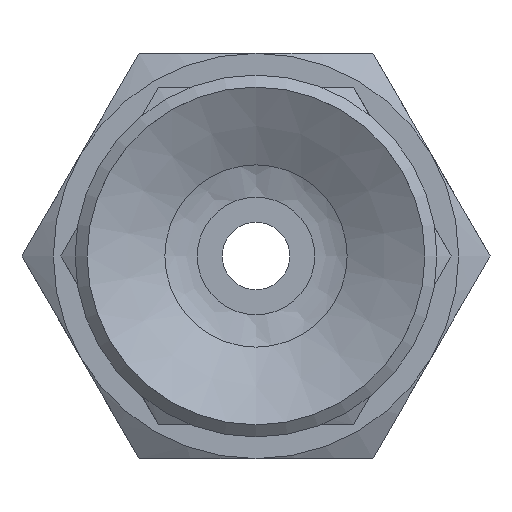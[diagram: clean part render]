
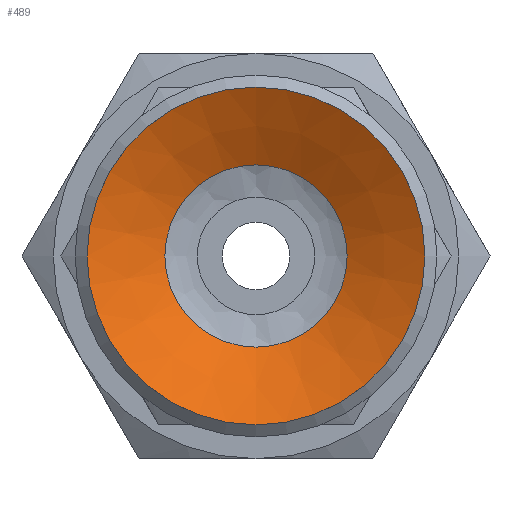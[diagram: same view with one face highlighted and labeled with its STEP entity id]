
A CAD part, front view. The second image highlights one B-rep face of the part: STEP entity #489.
In plain terms, the highlighted conical face has half-angle 61.39 degrees and reference radius 2.25 mm.
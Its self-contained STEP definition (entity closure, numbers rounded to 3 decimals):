
#489=ADVANCED_FACE('',(#723,#724),#725,.F.);
#723=FACE_BOUND('',#972,.T.);
#724=FACE_OUTER_BOUND('',#973,.T.);
#725=CONICAL_SURFACE('',#974,2.25,1.071);
#972=EDGE_LOOP('',(#1644));
#973=EDGE_LOOP('',(#1645));
#974=AXIS2_PLACEMENT_3D('',#1646,#1647,#1648);
#1644=ORIENTED_EDGE('',*,*,#1855,.T.);
#1645=ORIENTED_EDGE('',*,*,#1850,.T.);
#1646=CARTESIAN_POINT('',(0.0,1.5,0.0));
#1647=DIRECTION('',(-0.0,-1.0,0.));
#1648=DIRECTION('',(0.0,0.,-1.0));
#1850=EDGE_CURVE('',#2144,#2144,#2145,.T.);
#1855=EDGE_CURVE('',#2154,#2154,#2155,.T.);
#2144=VERTEX_POINT('',#2792);
#2145=CIRCLE('',#2793,5.);
#2154=VERTEX_POINT('',#2802);
#2155=CIRCLE('',#2803,2.698);
#2792=CARTESIAN_POINT('',(0.0,0.,-5.));
#2793=AXIS2_PLACEMENT_3D('',#3055,#3056,#3057);
#2802=CARTESIAN_POINT('',(0.0,1.256,-2.698));
#2803=AXIS2_PLACEMENT_3D('',#3070,#3071,#3072);
#3055=CARTESIAN_POINT('',(0.0,0.0,0.0));
#3056=DIRECTION('',(0.0,-1.0,0.));
#3057=DIRECTION('',(0.0,0.,-1.0));
#3070=CARTESIAN_POINT('',(0.0,1.256,0.0));
#3071=DIRECTION('',(0.0,1.0,0.));
#3072=DIRECTION('',(0.0,0.,-1.0));
